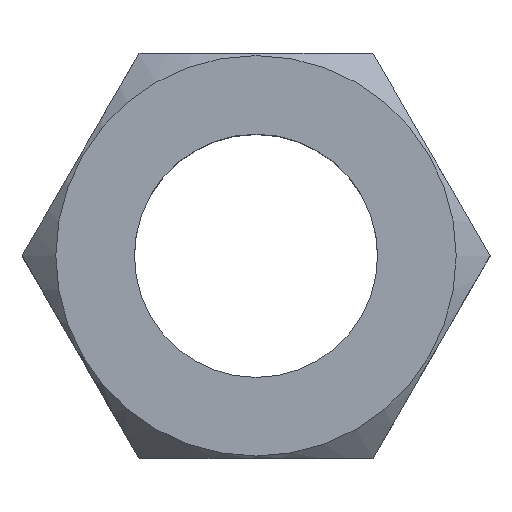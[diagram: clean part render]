
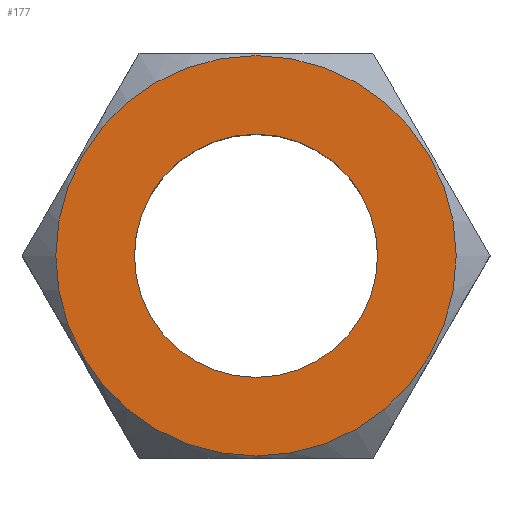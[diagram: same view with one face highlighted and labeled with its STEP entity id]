
A CAD part, top view. The second image highlights one B-rep face of the part: STEP entity #177.
In plain terms, the highlighted planar face has unit normal (0, 0, 1).
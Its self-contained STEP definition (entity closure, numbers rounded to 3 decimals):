
#33=PLANE('',#194);
#52=FACE_BOUND('',#78,.T.);
#63=FACE_OUTER_BOUND('',#77,.T.);
#77=EDGE_LOOP('',(#163));
#78=EDGE_LOOP('',(#164));
#82=CIRCLE('',#183,9.);
#83=CIRCLE('',#185,14.821);
#86=VERTEX_POINT('',#238);
#87=VERTEX_POINT('',#241);
#102=EDGE_CURVE('',#86,#86,#82,.T.);
#103=EDGE_CURVE('',#87,#87,#83,.T.);
#163=ORIENTED_EDGE('',*,*,#103,.T.);
#164=ORIENTED_EDGE('',*,*,#102,.T.);
#177=ADVANCED_FACE('',(#63,#52),#33,.T.);
#183=AXIS2_PLACEMENT_3D('',#239,#202,#203);
#185=AXIS2_PLACEMENT_3D('',#242,#206,#207);
#194=AXIS2_PLACEMENT_3D('',#306,#230,#231);
#202=DIRECTION('center_axis',(0.,0.,-1.));
#203=DIRECTION('ref_axis',(1.,0.,0.));
#206=DIRECTION('center_axis',(0.,0.,1.));
#207=DIRECTION('ref_axis',(1.,0.,0.));
#230=DIRECTION('center_axis',(0.,0.,1.));
#231=DIRECTION('ref_axis',(1.,0.,0.));
#238=CARTESIAN_POINT('',(-9.,0.,0.));
#239=CARTESIAN_POINT('Origin',(0.,0.,0.));
#241=CARTESIAN_POINT('',(-14.821,0.,0.));
#242=CARTESIAN_POINT('Origin',(0.,0.,0.));
#306=CARTESIAN_POINT('Origin',(0.,0.,0.));
